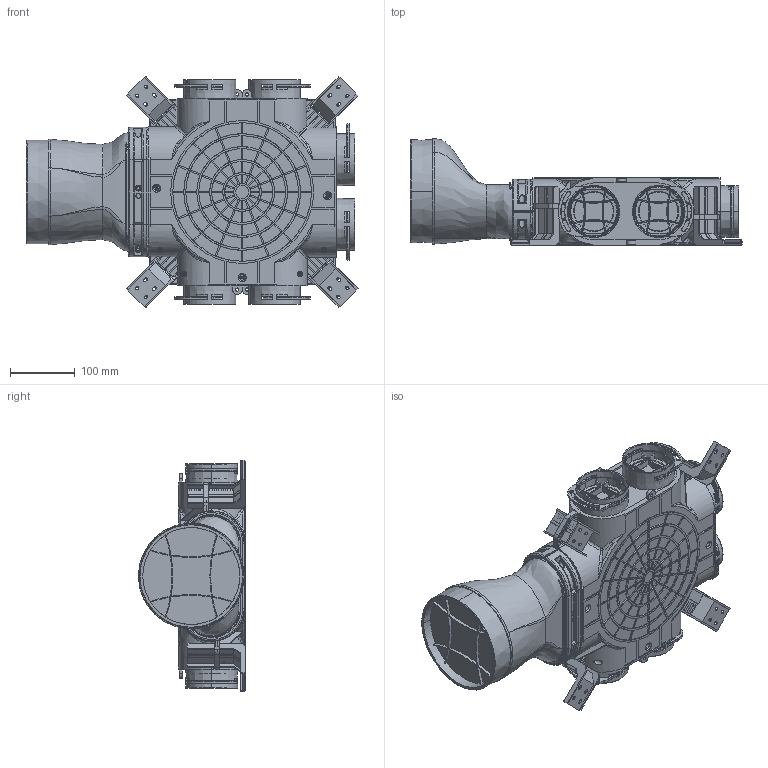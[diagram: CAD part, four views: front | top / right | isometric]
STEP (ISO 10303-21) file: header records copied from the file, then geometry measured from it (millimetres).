
FILE_DESCRIPTION((''),'2;1');
FILE_NAME('VCB160-6_UPR_ASM','2025-12-29T15:55:12',('niepogodzinskij'),(''),'CREO PARAMETRIC BY PTC INC, 2025010','CREO PARAMETRIC BY PTC INC, 2025010','');
FILE_SCHEMA(('CONFIG_CONTROL_DESIGN'));
Products named in the file (7): 0VCBOP_OBUD_VCB_PELNA_1_1_2_3; 0VCBP75X2_1_1_2_3; 0VPEO_OBEJMA_1_1_2_3; 0VBWM_WSPORNIK_VPB_VCB_1_1_2_3; 0VCBP160_PRZYLACZE160_1_1; ASM0001_ASM_1_1_2_3_ASM; VCB160-6_UPR_ASM
Assembly tree (13 placements, depth 3):
  VCB160-6_UPR_ASM
    ASM0001_ASM_1_1_2_3_ASM
      0VCBOP_OBUD_VCB_PELNA_1_1_2_3  x2
      0VCBP75X2_1_1_2_3  x3
      0VPEO_OBEJMA_1_1_2_3  x2
      0VBWM_WSPORNIK_VPB_VCB_1_1_2_3  x4
      0VCBP160_PRZYLACZE160_1_1
Bounding box: 512.33 x 164.89 x 357.57 mm (x, y, z)
Volume: 10069749.1 mm3; surface area: 1042137.2 mm2
Topology: 12 solids, 17 shells, 5554 faces, 14949 edges, 9385 vertices
Faces by surface type: plane 2138, cylinder 1239, torus 852, bspline 730, cone 470, sphere 108, extrusion 17
Entity records: 99753 total; most frequent: CARTESIAN_POINT 43953, ORIENTED_EDGE 12090, DIRECTION 11488, EDGE_CURVE 6045, AXIS2_PLACEMENT_3D 4462, VERTEX_POINT 3836, VECTOR 2564, LINE 2555
